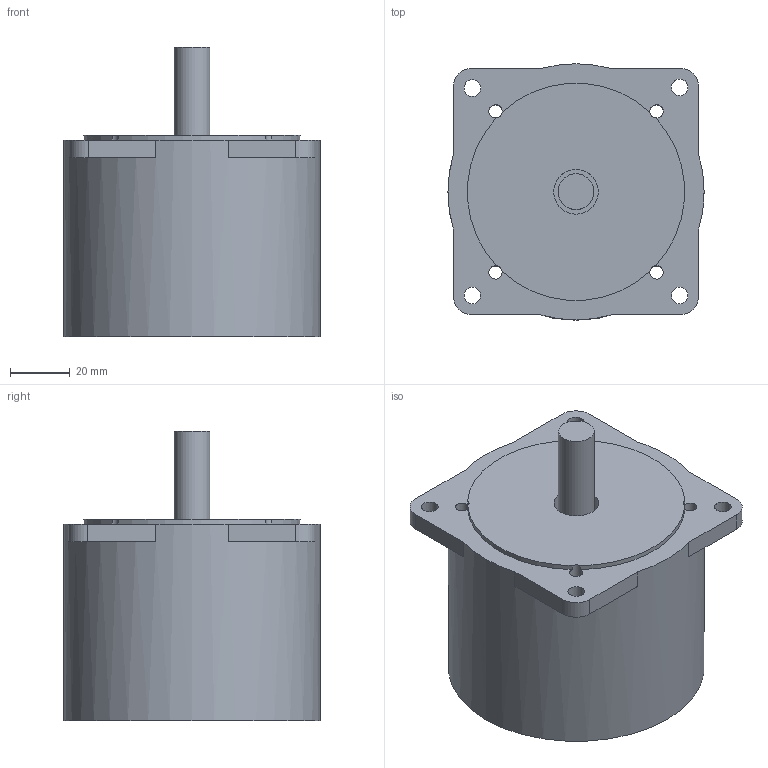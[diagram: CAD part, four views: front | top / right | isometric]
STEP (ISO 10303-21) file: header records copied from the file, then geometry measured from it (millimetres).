
FILE_DESCRIPTION(/* description */ (''),/* implementation_level */ '2;1');
FILE_NAME(/* name */ 'C:\Users\raffaele\Downloads\Projects\E&D\ipt-to-step-conversion\SLDPRT to STP\86ST67.stp',/* time_stamp */ '2021-04-07T17:16:38+02:00',/* author */ ('raffaele'),/* organization */ (''),/* preprocessor_version */ 'ST-DEVELOPER v18.1',/* originating_system */ 'Autodesk Inventor 2021',/* authorisation */ '');
FILE_SCHEMA (('AUTOMOTIVE_DESIGN { 1 0 10303 214 3 1 1 }'));
Length unit declared in the file: millimetre
Products named in the file (1): 86ST67
Bounding box: 86 x 86 x 97.1 mm (x, y, z)
Volume: 394715.3 mm3; surface area: 37848.3 mm2
Topology: 1 solids, 1 shells, 36 faces, 105 edges, 70 vertices
Faces by surface type: cylinder 19, plane 17
Full cylindrical faces by diameter (mm): 4.5 x4, 5.6 x4, 12 x1, 15 x1, 86 x1
Entity records: 1296 total; most frequent: DIRECTION 233, CARTESIAN_POINT 212, ORIENTED_EDGE 210, EDGE_CURVE 105, AXIS2_PLACEMENT_3D 91, VERTEX_POINT 70, CIRCLE 54, EDGE_LOOP 51
